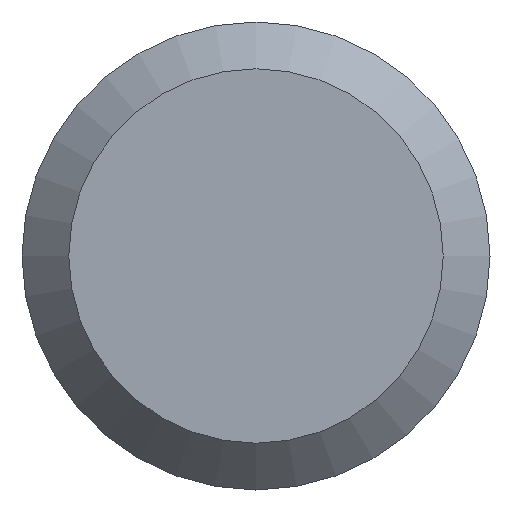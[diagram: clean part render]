
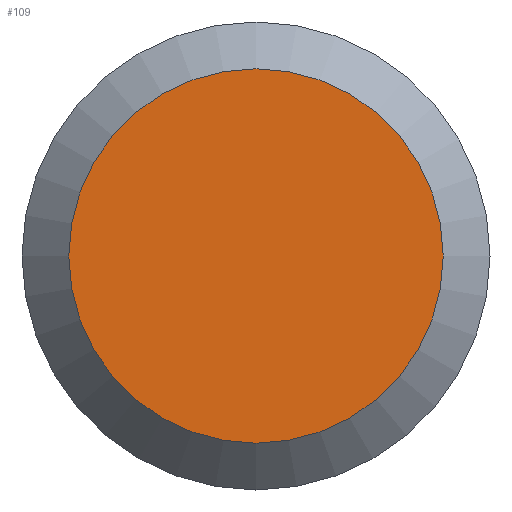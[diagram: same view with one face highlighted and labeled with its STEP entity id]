
A CAD part, left-side view. The second image highlights one B-rep face of the part: STEP entity #109.
In plain terms, the highlighted planar face has unit normal (-1, 0, 0).
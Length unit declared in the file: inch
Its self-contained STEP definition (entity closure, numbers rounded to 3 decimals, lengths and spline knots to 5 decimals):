
#8 = AXIS2_PLACEMENT_3D ( 'NONE', #129, #105, #158 ) ;
#14 = DIRECTION ( 'NONE',  ( 1., 0., 0. ) ) ;
#26 = AXIS2_PLACEMENT_3D ( 'NONE', #76, #14, #96 ) ;
#56 = PLANE ( 'NONE',  #26 ) ;
#76 = CARTESIAN_POINT ( 'NONE',  ( 0., 0.03906, 0. ) ) ;
#89 = ORIENTED_EDGE ( 'NONE', *, *, #246, .T. ) ;
#90 = CIRCLE ( 'NONE', #8, 0.03125 ) ;
#96 = DIRECTION ( 'NONE',  ( 0., 0., -1. ) ) ;
#97 = EDGE_LOOP ( 'NONE', ( #89 ) ) ;
#105 = DIRECTION ( 'NONE',  ( -1., 0., 0. ) ) ;
#109 = ADVANCED_FACE ( 'NONE', ( #134 ), #56, .F. ) ;
#111 = CARTESIAN_POINT ( 'NONE',  ( 0., 0., -0.03125 ) ) ;
#129 = CARTESIAN_POINT ( 'NONE',  ( 0., 0., 0. ) ) ;
#134 = FACE_OUTER_BOUND ( 'NONE', #97, .T. ) ;
#158 = DIRECTION ( 'NONE',  ( 0., 0., -1. ) ) ;
#232 = VERTEX_POINT ( 'NONE', #111 ) ;
#246 = EDGE_CURVE ( 'NONE', #232, #232, #90, .T. ) ;
